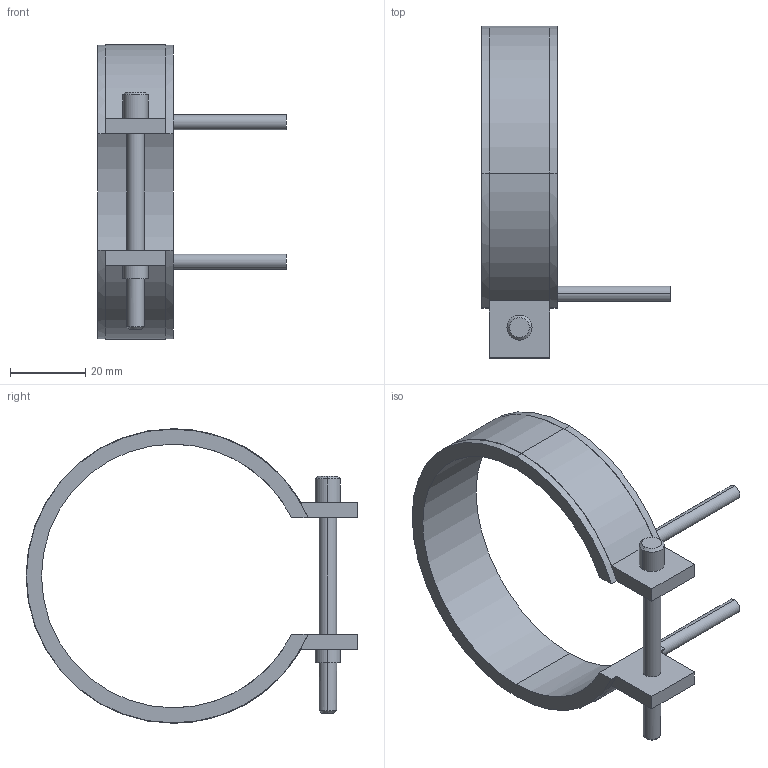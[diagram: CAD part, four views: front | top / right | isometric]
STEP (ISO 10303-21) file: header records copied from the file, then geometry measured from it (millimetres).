
FILE_DESCRIPTION(('CATIA V5 STEP Exchange'),'2;1');
FILE_NAME('C:\Users\Utente\Desktop\IO LAVORO\3D X SITO CF\X SITO\PLASTICA\RF2\14070020.stp','2021-04-03T07:17:17+00:00',('none'),('none'),'CATIA Version 5 Release 20 GA (IN-10)','CATIA V5 STEP AP203','none');
FILE_SCHEMA(('CONFIG_CONTROL_DESIGN'));
Length unit declared in the file: millimetre
Products named in the file (1): 14070020
Bounding box: 50 x 88.1 x 78.2 mm (x, y, z)
Volume: 20053.7 mm3; surface area: 12544.4 mm2
Topology: 1 solids, 1 shells, 45 faces, 116 edges, 76 vertices
Faces by surface type: cylinder 24, plane 17, cone 4
Entity records: 1412 total; most frequent: CARTESIAN_POINT 288, ORIENTED_EDGE 232, DIRECTION 195, EDGE_CURVE 116, AXIS2_PLACEMENT_3D 103, VERTEX_POINT 76, CIRCLE 61, VECTOR 52
